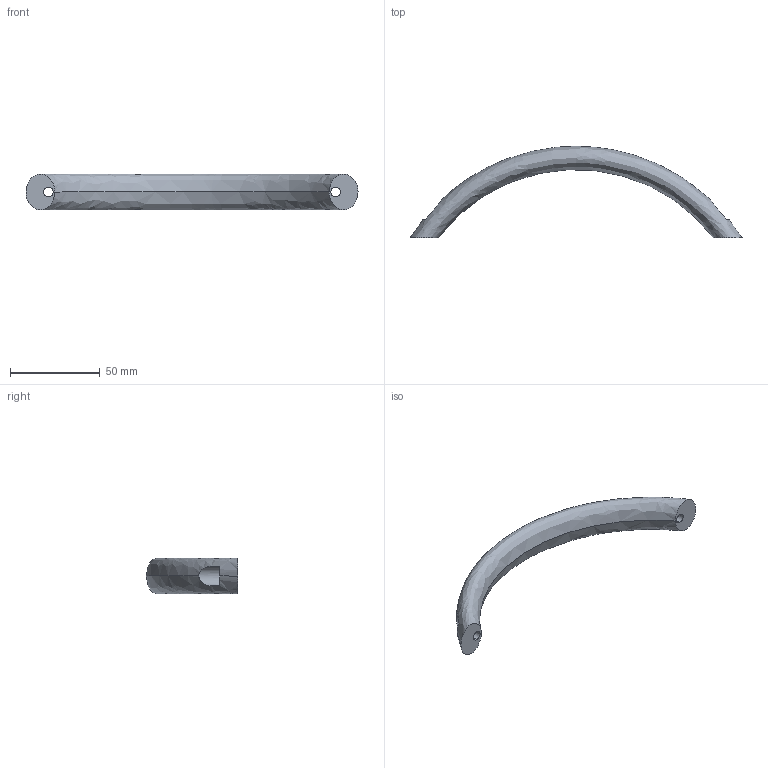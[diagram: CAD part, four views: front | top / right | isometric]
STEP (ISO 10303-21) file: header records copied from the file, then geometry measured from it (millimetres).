
FILE_DESCRIPTION (( 'STEP AP203' ), '1' );
FILE_NAME ('gn565-4_b_160-m5.step', '2010-11-02T08:21:17', ( '_' ), ( '_' ), 'SwSTEP 2.0', 'SolidWorks 2010', '' );
FILE_SCHEMA (( 'CONFIG_CONTROL_DESIGN' ));
Length unit declared in the file: millimetre
Products named in the file (1): gn565-4_b_160-m5
Bounding box: 185 x 51 x 20 mm (x, y, z)
Volume: 39010.1 mm3; surface area: 11598.4 mm2
Topology: 1 solids, 1 shells, 22 faces, 54 edges, 36 vertices
Faces by surface type: cylinder 10, plane 10, bspline 2
Entity records: 1744 total; most frequent: CARTESIAN_POINT 1162, ORIENTED_EDGE 108, DIRECTION 94, EDGE_CURVE 54, AXIS2_PLACEMENT_3D 39, VERTEX_POINT 36, EDGE_LOOP 28, ADVANCED_FACE 22
